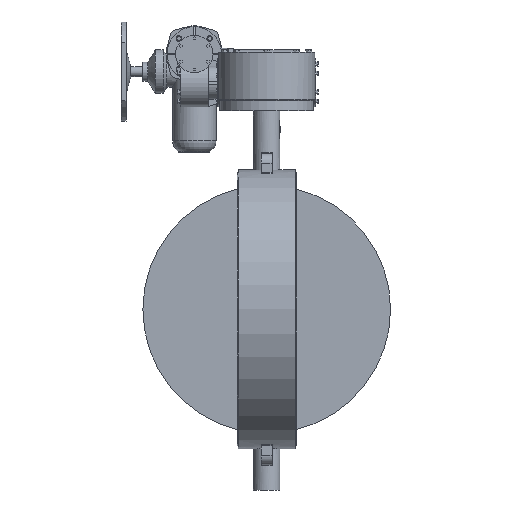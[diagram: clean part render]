
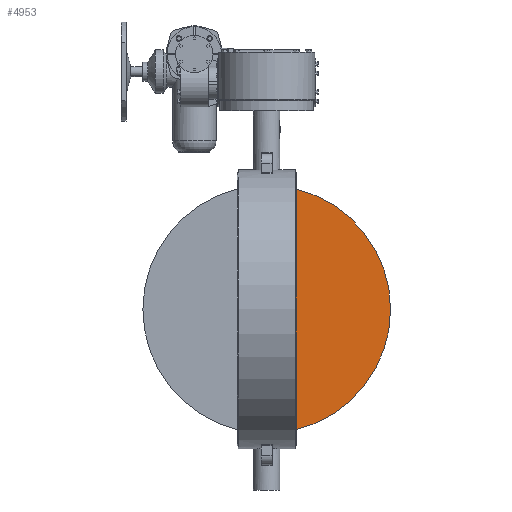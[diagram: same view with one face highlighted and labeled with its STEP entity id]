
A CAD part, front view. The second image highlights one B-rep face of the part: STEP entity #4953.
In plain terms, the highlighted planar face has unit normal (0, -1, 0).
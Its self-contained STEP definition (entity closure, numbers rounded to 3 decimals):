
#4953=ADVANCED_FACE('',(#9147),#9149,.T.);
#9147=FACE_BOUND('',#9148,.T.);
#9148=EDGE_LOOP('',(#11816,#11817));
#9149=PLANE('',#9150);
#9150=AXIS2_PLACEMENT_3D('',#9151,#9152,#9153);
#9151=CARTESIAN_POINT('',(0.,-10.,0.));
#9152=DIRECTION('',(0.,-1.,0.));
#9153=DIRECTION('',(0.,0.,1.));
#11816=ORIENTED_EDGE('',*,*,#13140,.T.);
#11817=ORIENTED_EDGE('',*,*,#13148,.T.);
#13140=EDGE_CURVE('',#15381,#15378,#15382,.T.);
#13148=EDGE_CURVE('',#15378,#15381,#15395,.T.);
#15378=VERTEX_POINT('',#23548);
#15381=VERTEX_POINT('',#23593);
#15382=LINE('',#23594,#23595);
#15395=CIRCLE('',#23744,397.7);
#23548=CARTESIAN_POINT('',(30.923,-10.,-396.496));
#23593=CARTESIAN_POINT('',(30.923,-10.,396.496));
#23594=CARTESIAN_POINT('',(30.923,-10.,396.496));
#23595=VECTOR('',#23596,1.);
#23596=DIRECTION('',(0.,0.,-1.));
#23744=AXIS2_PLACEMENT_3D('',#23745,#23746,#23747);
#23745=CARTESIAN_POINT('',(0.,-10.,0.));
#23746=DIRECTION('',(0.,-1.,0.));
#23747=DIRECTION('',(0.078,0.,-0.997));
